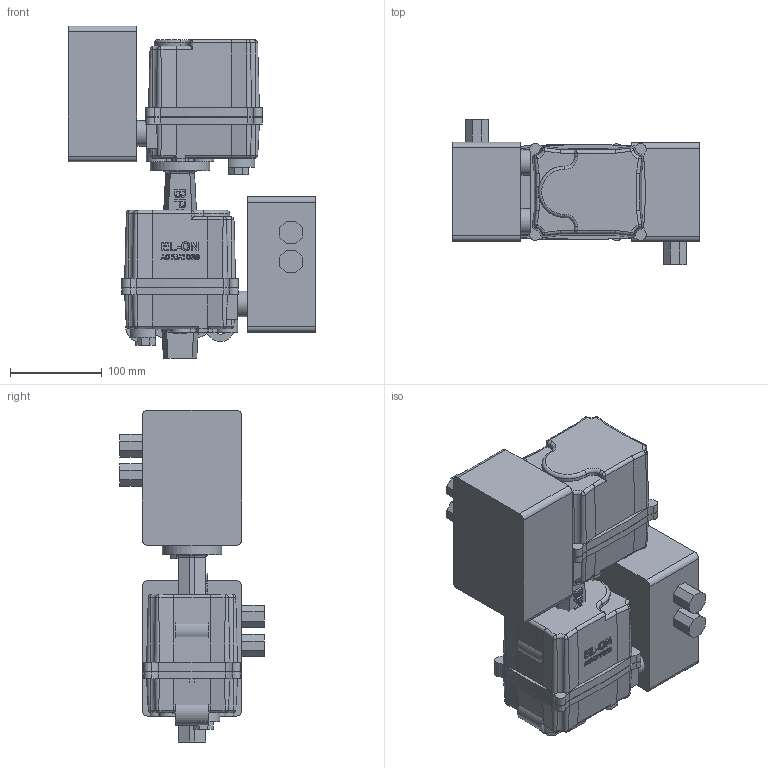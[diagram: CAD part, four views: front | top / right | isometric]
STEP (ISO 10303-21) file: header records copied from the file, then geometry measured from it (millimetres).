
FILE_DESCRIPTION( ( 'Unknown' ), '1' );
FILE_NAME( 'R:/ECCUA/ROOTSI BPS 3D vidinad/Poordklapid Lug type/Butterfly valve(lug) with electric actuator BPS/STEP formaat/BPS 2313050ER butterfly valve DN50.stp', 'Unknown', ( 'Unknown' ), ( 'Unknown' ), 'PSStep 10.1', 'Unknown', ' ' );
FILE_SCHEMA( ( 'AUTOMOTIVE_DESIGN { 1 0 10303 214 1 1 1 1 }' ) );
Length unit declared in the file: millimetre
Products named in the file (4): Assem1; BPS 8010058 electric actuator DN40-100; Butterfly valve lug type DN50 PN10-16 BPS
Bounding box: 270 x 158 x 362 mm (x, y, z)
Volume: 6347167.2 mm3; surface area: 524485.9 mm2
Topology: 6 solids, 6 shells, 1166 faces, 3108 edges, 2018 vertices
Faces by surface type: plane 394, cylinder 304, extrusion 274, cone 84, bspline 72, torus 38
Full cylindrical faces by diameter (mm): 4.134 x16, 4.917 x8, 6.647 x8, 7 x8, 13.835 x8, 28 x4, 50 x2, 65 x2, 83 x4, 95 x4
Entity records: 30245 total; most frequent: CARTESIAN_POINT 11820, ORIENTED_EDGE 2890, DIRECTION 2514, EDGE_CURVE 1445, VERTEX_POINT 981, VECTOR 898, AXIS2_PLACEMENT_3D 808, LINE 761
